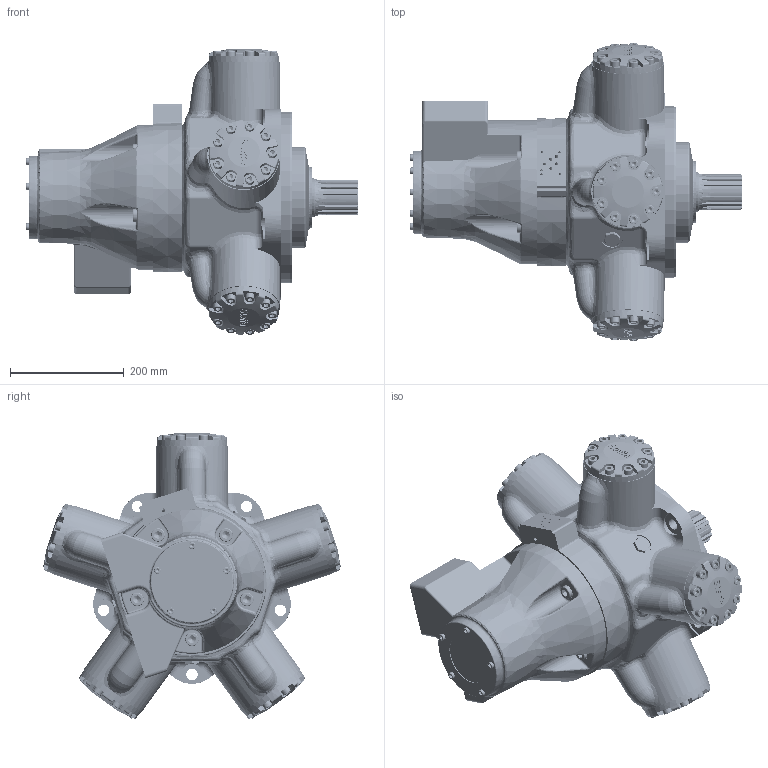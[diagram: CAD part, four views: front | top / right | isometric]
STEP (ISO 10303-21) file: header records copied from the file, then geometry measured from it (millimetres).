
FILE_DESCRIPTION((''),'2;1');
FILE_NAME('I:\3D Step files\Staffa\HMC080 S FM4 C 70.stp','2009-06-30T10:45:48',('mnorman'),(''),'Autodesk Inventor 2010','Autodesk Inventor 2010','');
FILE_SCHEMA(('AUTOMOTIVE_DESIGN { 1 0 10303 214 1 1 1 1 }'));
Length unit declared in the file: millimetre
Products named in the file (1): Part5
Bounding box: 583.65 x 524.48 x 502.41 mm (x, y, z)
Volume: 20314015.1 mm3; surface area: 1780618 mm2
Topology: 130 solids, 130 shells, 3417 faces, 8418 edges, 5446 vertices
Faces by surface type: plane 1345, bspline 1157, cylinder 497, cone 231, torus 172, sphere 15
Full cylindrical faces by diameter (mm): 7.938 x6, 10 x55, 10.5 x45, 11.913 x5, 12 x1, 15.875 x5, 16 x55, 16.272 x5, 16.51 x1, 16.7 x5, 19.05 x1, 22.225 x10, 23.825 x5, 25 x5, 25.4 x5, 28.575 x5, 28.677 x5, 38.1 x2, 38.176 x5, 65.1 x1, 69.825 x1, 73.228 x5, 73.914 x1, 75.032 x1, 79.318 x10, 79.375 x1, 79.388 x5, 88.9 x2, 92.075 x1, 92.151 x1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
Entity records: 117742 total; most frequent: CARTESIAN_POINT 46087, ORIENTED_EDGE 13916, DIRECTION 11919, EDGE_CURVE 6958, VERTEX_POINT 4934, EDGE_LOOP 4708, AXIS2_PLACEMENT_3D 4550, FACE_OUTER_BOUND 3415
